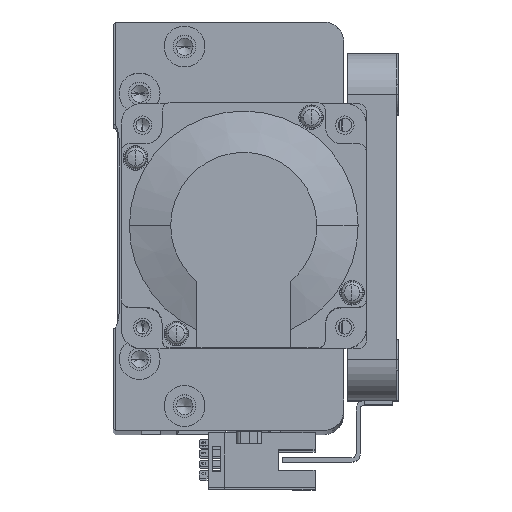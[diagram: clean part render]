
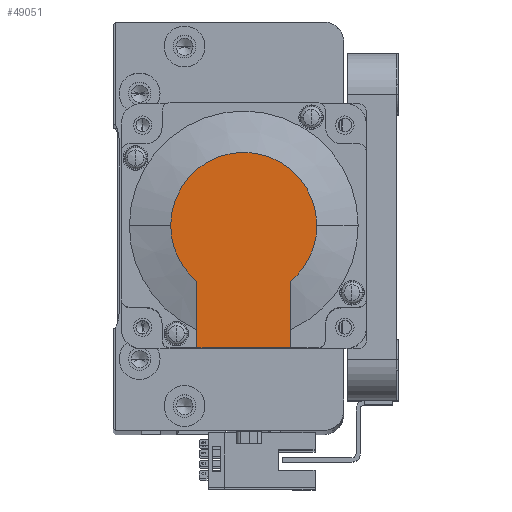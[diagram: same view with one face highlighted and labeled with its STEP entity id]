
A CAD part, top view. The second image highlights one B-rep face of the part: STEP entity #49051.
In plain terms, the highlighted planar face has unit normal (0, 0, 1) as drawn and (-1, 0, 0) by its records, which use the part's own axes.
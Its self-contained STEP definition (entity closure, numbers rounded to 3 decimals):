
#439 = PLANE ( 'NONE',  #83719 ) ;
#1761 = DIRECTION ( 'NONE',  ( -1., 0., 0. ) ) ;
#2322 = VECTOR ( 'NONE', #29519, 1000. ) ;
#2935 = EDGE_LOOP ( 'NONE', ( #6928, #91265, #32444, #39056, #84205, #102999 ) ) ;
#3265 = EDGE_CURVE ( 'NONE', #26032, #103607, #34000, .T. ) ;
#3694 = CARTESIAN_POINT ( 'NONE',  ( -118.5, 30., -11.45 ) ) ;
#4129 = AXIS2_PLACEMENT_3D ( 'NONE', #49678, #1761, #57720 ) ;
#6928 = ORIENTED_EDGE ( 'NONE', *, *, #3265, .T. ) ;
#7798 = VERTEX_POINT ( 'NONE', #60321 ) ;
#8042 = CARTESIAN_POINT ( 'NONE',  ( -118.5, 0., 0. ) ) ;
#8643 = CIRCLE ( 'NONE', #4129, 17.881 ) ;
#10887 = LINE ( 'NONE', #45441, #72187 ) ;
#12146 = VERTEX_POINT ( 'NONE', #58995 ) ;
#13867 = AXIS2_PLACEMENT_3D ( 'NONE', #68407, #20525, #76430 ) ;
#16040 = DIRECTION ( 'NONE',  ( 0., 0., -1. ) ) ;
#18055 = CARTESIAN_POINT ( 'NONE',  ( -118.5, 13.735, -11.45 ) ) ;
#20525 = DIRECTION ( 'NONE',  ( -1., 0., 0. ) ) ;
#20999 = CARTESIAN_POINT ( 'NONE',  ( -118.5, 0., 17.881 ) ) ;
#24930 = DIRECTION ( 'NONE',  ( 0., -1., 0. ) ) ;
#26032 = VERTEX_POINT ( 'NONE', #3694 ) ;
#29519 = DIRECTION ( 'NONE',  ( 0., -1., 0. ) ) ;
#29737 = VERTEX_POINT ( 'NONE', #20999 ) ;
#32444 = ORIENTED_EDGE ( 'NONE', *, *, #88621, .T. ) ;
#33812 = EDGE_CURVE ( 'NONE', #26032, #12146, #10887, .T. ) ;
#34000 = LINE ( 'NONE', #73464, #76507 ) ;
#36025 = FACE_OUTER_BOUND ( 'NONE', #2935, .T. ) ;
#39056 = ORIENTED_EDGE ( 'NONE', *, *, #98595, .T. ) ;
#40655 = DIRECTION ( 'NONE',  ( -1., 0., 0. ) ) ;
#41696 = CARTESIAN_POINT ( 'NONE',  ( -118.5, 0., -17.881 ) ) ;
#43488 = AXIS2_PLACEMENT_3D ( 'NONE', #8042, #63931, #16040 ) ;
#44842 = LINE ( 'NONE', #92365, #2322 ) ;
#45441 = CARTESIAN_POINT ( 'NONE',  ( -118.5, 30., 25. ) ) ;
#49051 = ADVANCED_FACE ( 'NONE', ( #36025 ), #439, .T. ) ;
#49678 = CARTESIAN_POINT ( 'NONE',  ( -118.5, 0., 0. ) ) ;
#57720 = DIRECTION ( 'NONE',  ( 0., 0., -1. ) ) ;
#58995 = CARTESIAN_POINT ( 'NONE',  ( -118.5, 30., 11.45 ) ) ;
#60321 = CARTESIAN_POINT ( 'NONE',  ( -118.5, 13.735, 11.45 ) ) ;
#62194 = EDGE_CURVE ( 'NONE', #12146, #7798, #44842, .T. ) ;
#63931 = DIRECTION ( 'NONE',  ( -1., 0., 0. ) ) ;
#67908 = CIRCLE ( 'NONE', #43488, 17.881 ) ;
#68407 = CARTESIAN_POINT ( 'NONE',  ( -118.5, 0., 0. ) ) ;
#72187 = VECTOR ( 'NONE', #101325, 1000. ) ;
#73464 = CARTESIAN_POINT ( 'NONE',  ( -118.5, -8.941, -11.45 ) ) ;
#76430 = DIRECTION ( 'NONE',  ( 0., 0., -1. ) ) ;
#76507 = VECTOR ( 'NONE', #24930, 1000. ) ;
#83719 = AXIS2_PLACEMENT_3D ( 'NONE', #88529, #40655, #96531 ) ;
#84205 = ORIENTED_EDGE ( 'NONE', *, *, #62194, .F. ) ;
#87308 = EDGE_CURVE ( 'NONE', #103607, #95807, #67908, .T. ) ;
#88529 = CARTESIAN_POINT ( 'NONE',  ( -118.5, -8.941, 0. ) ) ;
#88621 = EDGE_CURVE ( 'NONE', #95807, #29737, #8643, .T. ) ;
#90014 = CIRCLE ( 'NONE', #13867, 17.881 ) ;
#91265 = ORIENTED_EDGE ( 'NONE', *, *, #87308, .T. ) ;
#92365 = CARTESIAN_POINT ( 'NONE',  ( -118.5, 0., 11.45 ) ) ;
#95807 = VERTEX_POINT ( 'NONE', #41696 ) ;
#96531 = DIRECTION ( 'NONE',  ( 0., 0., 1. ) ) ;
#98595 = EDGE_CURVE ( 'NONE', #29737, #7798, #90014, .T. ) ;
#101325 = DIRECTION ( 'NONE',  ( 0., 0., 1. ) ) ;
#102999 = ORIENTED_EDGE ( 'NONE', *, *, #33812, .F. ) ;
#103607 = VERTEX_POINT ( 'NONE', #18055 ) ;
